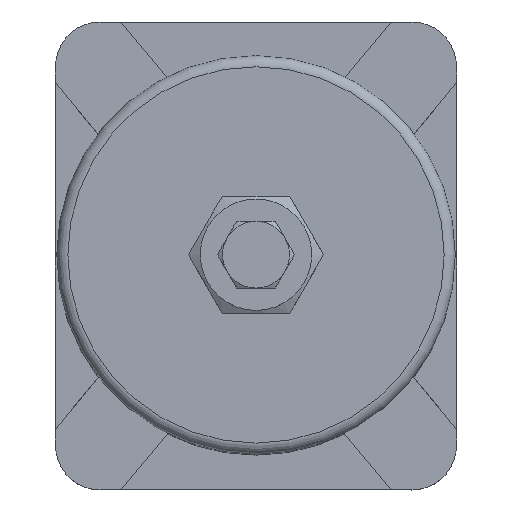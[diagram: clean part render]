
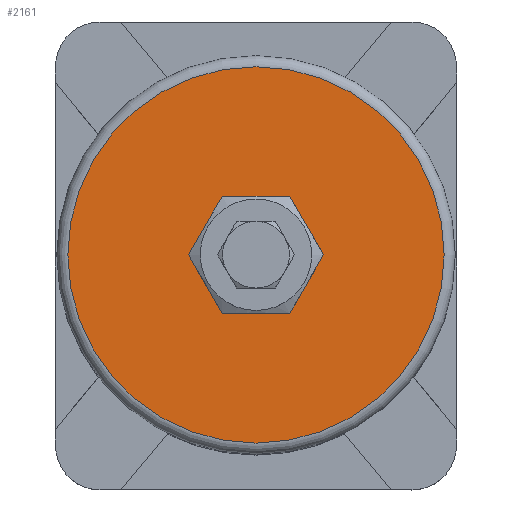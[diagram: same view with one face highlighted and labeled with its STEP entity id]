
A CAD part, top view. The second image highlights one B-rep face of the part: STEP entity #2161.
In plain terms, the highlighted planar face has unit normal (0, 0, 1).
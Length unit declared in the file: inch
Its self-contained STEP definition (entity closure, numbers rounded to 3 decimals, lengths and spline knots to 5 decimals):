
#407=PLANE('',#2310);
#496=FACE_BOUND('',#681,.T.);
#540=FACE_OUTER_BOUND('',#680,.T.);
#680=EDGE_LOOP('',(#1436));
#681=EDGE_LOOP('',(#1437));
#859=CIRCLE('',#2307,2.1113);
#861=CIRCLE('',#2311,0.38281);
#943=VERTEX_POINT('',#3043);
#945=VERTEX_POINT('',#3049);
#1143=EDGE_CURVE('',#943,#943,#859,.T.);
#1145=EDGE_CURVE('',#945,#945,#861,.T.);
#1436=ORIENTED_EDGE('',*,*,#1143,.F.);
#1437=ORIENTED_EDGE('',*,*,#1145,.F.);
#2161=ADVANCED_FACE('',(#540,#496),#407,.T.);
#2307=AXIS2_PLACEMENT_3D('',#3044,#2511,#2512);
#2310=AXIS2_PLACEMENT_3D('',#3048,#2517,#2518);
#2311=AXIS2_PLACEMENT_3D('',#3050,#2519,#2520);
#2511=DIRECTION('center_axis',(0.,0.,
-1.));
#2512=DIRECTION('ref_axis',(-1.,0.,0.));
#2517=DIRECTION('center_axis',(0.,0.,
1.));
#2518=DIRECTION('ref_axis',(1.,0.,0.));
#2519=DIRECTION('center_axis',(0.,0.,
1.));
#2520=DIRECTION('ref_axis',(1.,0.,0.));
#3043=CARTESIAN_POINT('',(2.1113,0.,7.1875));
#3044=CARTESIAN_POINT('Origin',(0.,0.,
7.1875));
#3048=CARTESIAN_POINT('Origin',(1.31641,0.,7.1875));
#3049=CARTESIAN_POINT('',(0.38281,0.,7.1875));
#3050=CARTESIAN_POINT('Origin',(0.,0.,
7.1875));
